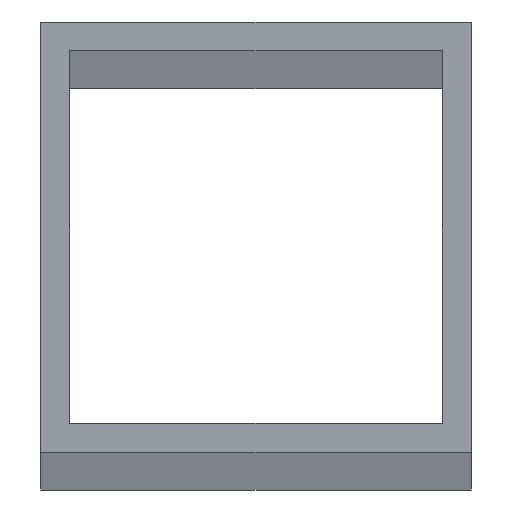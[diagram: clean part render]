
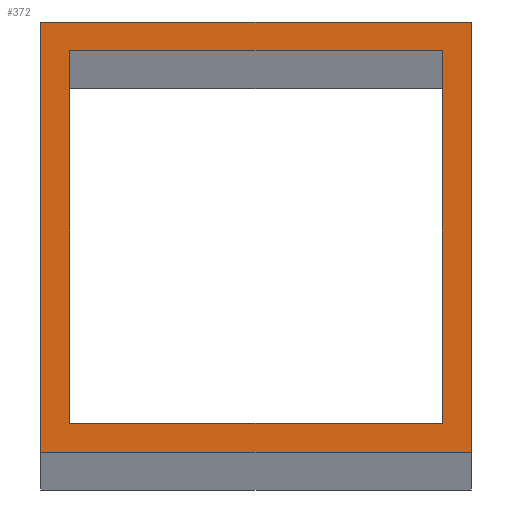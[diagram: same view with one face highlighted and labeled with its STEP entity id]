
A CAD part, top view. The second image highlights one B-rep face of the part: STEP entity #372.
In plain terms, the highlighted planar face has unit normal (0, 0, 1).
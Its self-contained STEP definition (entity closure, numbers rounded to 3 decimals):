
#32 = PLANE('',#33);
#33 = AXIS2_PLACEMENT_3D('',#34,#35,#36);
#34 = CARTESIAN_POINT('',(-30.,-30.,0.));
#35 = DIRECTION('',(0.,1.,0.));
#36 = DIRECTION('',(1.,0.,0.));
#57 = VERTEX_POINT('',#58);
#58 = CARTESIAN_POINT('',(-30.,-30.,3036.));
#72 = PLANE('',#73);
#73 = AXIS2_PLACEMENT_3D('',#74,#75,#76);
#74 = CARTESIAN_POINT('',(-30.,30.,0.));
#75 = DIRECTION('',(1.,0.,-0.));
#76 = DIRECTION('',(0.,-1.,0.));
#84 = EDGE_CURVE('',#85,#57,#87,.T.);
#85 = VERTEX_POINT('',#86);
#86 = CARTESIAN_POINT('',(30.,-30.,3036.));
#87 = SURFACE_CURVE('',#88,(#92,#98),.PCURVE_S1.);
#88 = LINE('',#89,#90);
#89 = CARTESIAN_POINT('',(-15.,-30.,3036.));
#90 = VECTOR('',#91,1.);
#91 = DIRECTION('',(-1.,0.,0.));
#92 = PCURVE('',#32,#93);
#93 = DEFINITIONAL_REPRESENTATION('',(#94),#97);
#94 = B_SPLINE_CURVE_WITH_KNOTS('',1,(#95,#96),.UNSPECIFIED.,.F.,.F.,(2,
    2),(-45.,15.),.PIECEWISE_BEZIER_KNOTS.);
#95 = CARTESIAN_POINT('',(60.,-3036.));
#96 = CARTESIAN_POINT('',(0.,-3036.));
#97 = ( GEOMETRIC_REPRESENTATION_CONTEXT(2) 
PARAMETRIC_REPRESENTATION_CONTEXT() REPRESENTATION_CONTEXT('2D SPACE',''
  ) );
#98 = PCURVE('',#99,#104);
#99 = PLANE('',#100);
#100 = AXIS2_PLACEMENT_3D('',#101,#102,#103);
#101 = CARTESIAN_POINT('',(0.,-92.,3036.));
#102 = DIRECTION('',(0.,0.,-1.));
#103 = DIRECTION('',(-1.,0.,0.));
#104 = DEFINITIONAL_REPRESENTATION('',(#105),#108);
#105 = B_SPLINE_CURVE_WITH_KNOTS('',1,(#106,#107),.UNSPECIFIED.,.F.,.F.,
  (2,2),(-45.,15.),.PIECEWISE_BEZIER_KNOTS.);
#106 = CARTESIAN_POINT('',(-30.,62.));
#107 = CARTESIAN_POINT('',(30.,62.));
#108 = ( GEOMETRIC_REPRESENTATION_CONTEXT(2) 
PARAMETRIC_REPRESENTATION_CONTEXT() REPRESENTATION_CONTEXT('2D SPACE',''
  ) );
#124 = PLANE('',#125);
#125 = AXIS2_PLACEMENT_3D('',#126,#127,#128);
#126 = CARTESIAN_POINT('',(30.,-30.,0.));
#127 = DIRECTION('',(-1.,0.,0.));
#128 = DIRECTION('',(0.,1.,0.));
#179 = PLANE('',#180);
#180 = AXIS2_PLACEMENT_3D('',#181,#182,#183);
#181 = CARTESIAN_POINT('',(30.,30.,0.));
#182 = DIRECTION('',(0.,-1.,0.));
#183 = DIRECTION('',(-1.,0.,0.));
#232 = PLANE('',#233);
#233 = AXIS2_PLACEMENT_3D('',#234,#235,#236);
#234 = CARTESIAN_POINT('',(-26.,-26.,0.));
#235 = DIRECTION('',(0.,1.,0.));
#236 = DIRECTION('',(1.,0.,0.));
#260 = PLANE('',#261);
#261 = AXIS2_PLACEMENT_3D('',#262,#263,#264);
#262 = CARTESIAN_POINT('',(26.,-26.,0.));
#263 = DIRECTION('',(-1.,0.,0.));
#264 = DIRECTION('',(0.,1.,0.));
#288 = PLANE('',#289);
#289 = AXIS2_PLACEMENT_3D('',#290,#291,#292);
#290 = CARTESIAN_POINT('',(26.,26.,0.));
#291 = DIRECTION('',(0.,-1.,0.));
#292 = DIRECTION('',(-1.,0.,0.));
#314 = PLANE('',#315);
#315 = AXIS2_PLACEMENT_3D('',#316,#317,#318);
#316 = CARTESIAN_POINT('',(-26.,26.,0.));
#317 = DIRECTION('',(1.,0.,-0.));
#318 = DIRECTION('',(0.,-1.,0.));
#331 = EDGE_CURVE('',#332,#85,#334,.T.);
#332 = VERTEX_POINT('',#333);
#333 = CARTESIAN_POINT('',(30.,30.,3036.));
#334 = SURFACE_CURVE('',#335,(#339,#345),.PCURVE_S1.);
#335 = LINE('',#336,#337);
#336 = CARTESIAN_POINT('',(30.,-61.,3036.));
#337 = VECTOR('',#338,1.);
#338 = DIRECTION('',(-0.,-1.,-0.));
#339 = PCURVE('',#124,#340);
#340 = DEFINITIONAL_REPRESENTATION('',(#341),#344);
#341 = B_SPLINE_CURVE_WITH_KNOTS('',1,(#342,#343),.UNSPECIFIED.,.F.,.F.,
  (2,2),(-91.,-31.),.PIECEWISE_BEZIER_KNOTS.);
#342 = CARTESIAN_POINT('',(60.,-3036.));
#343 = CARTESIAN_POINT('',(0.,-3036.));
#344 = ( GEOMETRIC_REPRESENTATION_CONTEXT(2) 
PARAMETRIC_REPRESENTATION_CONTEXT() REPRESENTATION_CONTEXT('2D SPACE',''
  ) );
#345 = PCURVE('',#99,#346);
#346 = DEFINITIONAL_REPRESENTATION('',(#347),#350);
#347 = B_SPLINE_CURVE_WITH_KNOTS('',1,(#348,#349),.UNSPECIFIED.,.F.,.F.,
  (2,2),(-91.,-31.),.PIECEWISE_BEZIER_KNOTS.);
#348 = CARTESIAN_POINT('',(-30.,122.));
#349 = CARTESIAN_POINT('',(-30.,62.));
#350 = ( GEOMETRIC_REPRESENTATION_CONTEXT(2) 
PARAMETRIC_REPRESENTATION_CONTEXT() REPRESENTATION_CONTEXT('2D SPACE',''
  ) );
#372 = ADVANCED_FACE('',(#373,#417),#99,.F.);
#373 = FACE_BOUND('',#374,.F.);
#374 = EDGE_LOOP('',(#375,#376,#377,#398));
#375 = ORIENTED_EDGE('',*,*,#331,.T.);
#376 = ORIENTED_EDGE('',*,*,#84,.T.);
#377 = ORIENTED_EDGE('',*,*,#378,.T.);
#378 = EDGE_CURVE('',#57,#379,#381,.T.);
#379 = VERTEX_POINT('',#380);
#380 = CARTESIAN_POINT('',(-30.,30.,3036.));
#381 = SURFACE_CURVE('',#382,(#386,#392),.PCURVE_S1.);
#382 = LINE('',#383,#384);
#383 = CARTESIAN_POINT('',(-30.,-31.,3036.));
#384 = VECTOR('',#385,1.);
#385 = DIRECTION('',(0.,1.,0.));
#386 = PCURVE('',#99,#387);
#387 = DEFINITIONAL_REPRESENTATION('',(#388),#391);
#388 = B_SPLINE_CURVE_WITH_KNOTS('',1,(#389,#390),.UNSPECIFIED.,.F.,.F.,
  (2,2),(1.,61.),.PIECEWISE_BEZIER_KNOTS.);
#389 = CARTESIAN_POINT('',(30.,62.));
#390 = CARTESIAN_POINT('',(30.,122.));
#391 = ( GEOMETRIC_REPRESENTATION_CONTEXT(2) 
PARAMETRIC_REPRESENTATION_CONTEXT() REPRESENTATION_CONTEXT('2D SPACE',''
  ) );
#392 = PCURVE('',#72,#393);
#393 = DEFINITIONAL_REPRESENTATION('',(#394),#397);
#394 = B_SPLINE_CURVE_WITH_KNOTS('',1,(#395,#396),.UNSPECIFIED.,.F.,.F.,
  (2,2),(1.,61.),.PIECEWISE_BEZIER_KNOTS.);
#395 = CARTESIAN_POINT('',(60.,-3036.));
#396 = CARTESIAN_POINT('',(0.,-3036.));
#397 = ( GEOMETRIC_REPRESENTATION_CONTEXT(2) 
PARAMETRIC_REPRESENTATION_CONTEXT() REPRESENTATION_CONTEXT('2D SPACE',''
  ) );
#398 = ORIENTED_EDGE('',*,*,#399,.T.);
#399 = EDGE_CURVE('',#379,#332,#400,.T.);
#400 = SURFACE_CURVE('',#401,(#405,#411),.PCURVE_S1.);
#401 = LINE('',#402,#403);
#402 = CARTESIAN_POINT('',(15.,30.,3036.));
#403 = VECTOR('',#404,1.);
#404 = DIRECTION('',(1.,0.,0.));
#405 = PCURVE('',#99,#406);
#406 = DEFINITIONAL_REPRESENTATION('',(#407),#410);
#407 = B_SPLINE_CURVE_WITH_KNOTS('',1,(#408,#409),.UNSPECIFIED.,.F.,.F.,
  (2,2),(-45.,15.),.PIECEWISE_BEZIER_KNOTS.);
#408 = CARTESIAN_POINT('',(30.,122.));
#409 = CARTESIAN_POINT('',(-30.,122.));
#410 = ( GEOMETRIC_REPRESENTATION_CONTEXT(2) 
PARAMETRIC_REPRESENTATION_CONTEXT() REPRESENTATION_CONTEXT('2D SPACE',''
  ) );
#411 = PCURVE('',#179,#412);
#412 = DEFINITIONAL_REPRESENTATION('',(#413),#416);
#413 = B_SPLINE_CURVE_WITH_KNOTS('',1,(#414,#415),.UNSPECIFIED.,.F.,.F.,
  (2,2),(-45.,15.),.PIECEWISE_BEZIER_KNOTS.);
#414 = CARTESIAN_POINT('',(60.,-3036.));
#415 = CARTESIAN_POINT('',(0.,-3036.));
#416 = ( GEOMETRIC_REPRESENTATION_CONTEXT(2) 
PARAMETRIC_REPRESENTATION_CONTEXT() REPRESENTATION_CONTEXT('2D SPACE',''
  ) );
#417 = FACE_BOUND('',#418,.F.);
#418 = EDGE_LOOP('',(#419,#442,#463,#484));
#419 = ORIENTED_EDGE('',*,*,#420,.F.);
#420 = EDGE_CURVE('',#421,#423,#425,.T.);
#421 = VERTEX_POINT('',#422);
#422 = CARTESIAN_POINT('',(26.,-26.,3036.));
#423 = VERTEX_POINT('',#424);
#424 = CARTESIAN_POINT('',(-26.,-26.,3036.));
#425 = SURFACE_CURVE('',#426,(#430,#436),.PCURVE_S1.);
#426 = LINE('',#427,#428);
#427 = CARTESIAN_POINT('',(-13.,-26.,3036.));
#428 = VECTOR('',#429,1.);
#429 = DIRECTION('',(-1.,0.,0.));
#430 = PCURVE('',#99,#431);
#431 = DEFINITIONAL_REPRESENTATION('',(#432),#435);
#432 = B_SPLINE_CURVE_WITH_KNOTS('',1,(#433,#434),.UNSPECIFIED.,.F.,.F.,
  (2,2),(-39.,13.),.PIECEWISE_BEZIER_KNOTS.);
#433 = CARTESIAN_POINT('',(-26.,66.));
#434 = CARTESIAN_POINT('',(26.,66.));
#435 = ( GEOMETRIC_REPRESENTATION_CONTEXT(2) 
PARAMETRIC_REPRESENTATION_CONTEXT() REPRESENTATION_CONTEXT('2D SPACE',''
  ) );
#436 = PCURVE('',#232,#437);
#437 = DEFINITIONAL_REPRESENTATION('',(#438),#441);
#438 = B_SPLINE_CURVE_WITH_KNOTS('',1,(#439,#440),.UNSPECIFIED.,.F.,.F.,
  (2,2),(-39.,13.),.PIECEWISE_BEZIER_KNOTS.);
#439 = CARTESIAN_POINT('',(52.,-3036.));
#440 = CARTESIAN_POINT('',(0.,-3036.));
#441 = ( GEOMETRIC_REPRESENTATION_CONTEXT(2) 
PARAMETRIC_REPRESENTATION_CONTEXT() REPRESENTATION_CONTEXT('2D SPACE',''
  ) );
#442 = ORIENTED_EDGE('',*,*,#443,.F.);
#443 = EDGE_CURVE('',#444,#421,#446,.T.);
#444 = VERTEX_POINT('',#445);
#445 = CARTESIAN_POINT('',(26.,26.,3036.));
#446 = SURFACE_CURVE('',#447,(#451,#457),.PCURVE_S1.);
#447 = LINE('',#448,#449);
#448 = CARTESIAN_POINT('',(26.,-59.,3036.));
#449 = VECTOR('',#450,1.);
#450 = DIRECTION('',(-0.,-1.,-0.));
#451 = PCURVE('',#99,#452);
#452 = DEFINITIONAL_REPRESENTATION('',(#453),#456);
#453 = B_SPLINE_CURVE_WITH_KNOTS('',1,(#454,#455),.UNSPECIFIED.,.F.,.F.,
  (2,2),(-85.,-33.),.PIECEWISE_BEZIER_KNOTS.);
#454 = CARTESIAN_POINT('',(-26.,118.));
#455 = CARTESIAN_POINT('',(-26.,66.));
#456 = ( GEOMETRIC_REPRESENTATION_CONTEXT(2) 
PARAMETRIC_REPRESENTATION_CONTEXT() REPRESENTATION_CONTEXT('2D SPACE',''
  ) );
#457 = PCURVE('',#260,#458);
#458 = DEFINITIONAL_REPRESENTATION('',(#459),#462);
#459 = B_SPLINE_CURVE_WITH_KNOTS('',1,(#460,#461),.UNSPECIFIED.,.F.,.F.,
  (2,2),(-85.,-33.),.PIECEWISE_BEZIER_KNOTS.);
#460 = CARTESIAN_POINT('',(52.,-3036.));
#461 = CARTESIAN_POINT('',(0.,-3036.));
#462 = ( GEOMETRIC_REPRESENTATION_CONTEXT(2) 
PARAMETRIC_REPRESENTATION_CONTEXT() REPRESENTATION_CONTEXT('2D SPACE',''
  ) );
#463 = ORIENTED_EDGE('',*,*,#464,.F.);
#464 = EDGE_CURVE('',#465,#444,#467,.T.);
#465 = VERTEX_POINT('',#466);
#466 = CARTESIAN_POINT('',(-26.,26.,3036.));
#467 = SURFACE_CURVE('',#468,(#472,#478),.PCURVE_S1.);
#468 = LINE('',#469,#470);
#469 = CARTESIAN_POINT('',(13.,26.,3036.));
#470 = VECTOR('',#471,1.);
#471 = DIRECTION('',(1.,0.,0.));
#472 = PCURVE('',#99,#473);
#473 = DEFINITIONAL_REPRESENTATION('',(#474),#477);
#474 = B_SPLINE_CURVE_WITH_KNOTS('',1,(#475,#476),.UNSPECIFIED.,.F.,.F.,
  (2,2),(-39.,13.),.PIECEWISE_BEZIER_KNOTS.);
#475 = CARTESIAN_POINT('',(26.,118.));
#476 = CARTESIAN_POINT('',(-26.,118.));
#477 = ( GEOMETRIC_REPRESENTATION_CONTEXT(2) 
PARAMETRIC_REPRESENTATION_CONTEXT() REPRESENTATION_CONTEXT('2D SPACE',''
  ) );
#478 = PCURVE('',#288,#479);
#479 = DEFINITIONAL_REPRESENTATION('',(#480),#483);
#480 = B_SPLINE_CURVE_WITH_KNOTS('',1,(#481,#482),.UNSPECIFIED.,.F.,.F.,
  (2,2),(-39.,13.),.PIECEWISE_BEZIER_KNOTS.);
#481 = CARTESIAN_POINT('',(52.,-3036.));
#482 = CARTESIAN_POINT('',(0.,-3036.));
#483 = ( GEOMETRIC_REPRESENTATION_CONTEXT(2) 
PARAMETRIC_REPRESENTATION_CONTEXT() REPRESENTATION_CONTEXT('2D SPACE',''
  ) );
#484 = ORIENTED_EDGE('',*,*,#485,.F.);
#485 = EDGE_CURVE('',#423,#465,#486,.T.);
#486 = SURFACE_CURVE('',#487,(#491,#497),.PCURVE_S1.);
#487 = LINE('',#488,#489);
#488 = CARTESIAN_POINT('',(-26.,-33.,3036.));
#489 = VECTOR('',#490,1.);
#490 = DIRECTION('',(0.,1.,0.));
#491 = PCURVE('',#99,#492);
#492 = DEFINITIONAL_REPRESENTATION('',(#493),#496);
#493 = B_SPLINE_CURVE_WITH_KNOTS('',1,(#494,#495),.UNSPECIFIED.,.F.,.F.,
  (2,2),(7.,59.),.PIECEWISE_BEZIER_KNOTS.);
#494 = CARTESIAN_POINT('',(26.,66.));
#495 = CARTESIAN_POINT('',(26.,118.));
#496 = ( GEOMETRIC_REPRESENTATION_CONTEXT(2) 
PARAMETRIC_REPRESENTATION_CONTEXT() REPRESENTATION_CONTEXT('2D SPACE',''
  ) );
#497 = PCURVE('',#314,#498);
#498 = DEFINITIONAL_REPRESENTATION('',(#499),#502);
#499 = B_SPLINE_CURVE_WITH_KNOTS('',1,(#500,#501),.UNSPECIFIED.,.F.,.F.,
  (2,2),(7.,59.),.PIECEWISE_BEZIER_KNOTS.);
#500 = CARTESIAN_POINT('',(52.,-3036.));
#501 = CARTESIAN_POINT('',(0.,-3036.));
#502 = ( GEOMETRIC_REPRESENTATION_CONTEXT(2) 
PARAMETRIC_REPRESENTATION_CONTEXT() REPRESENTATION_CONTEXT('2D SPACE',''
  ) );
